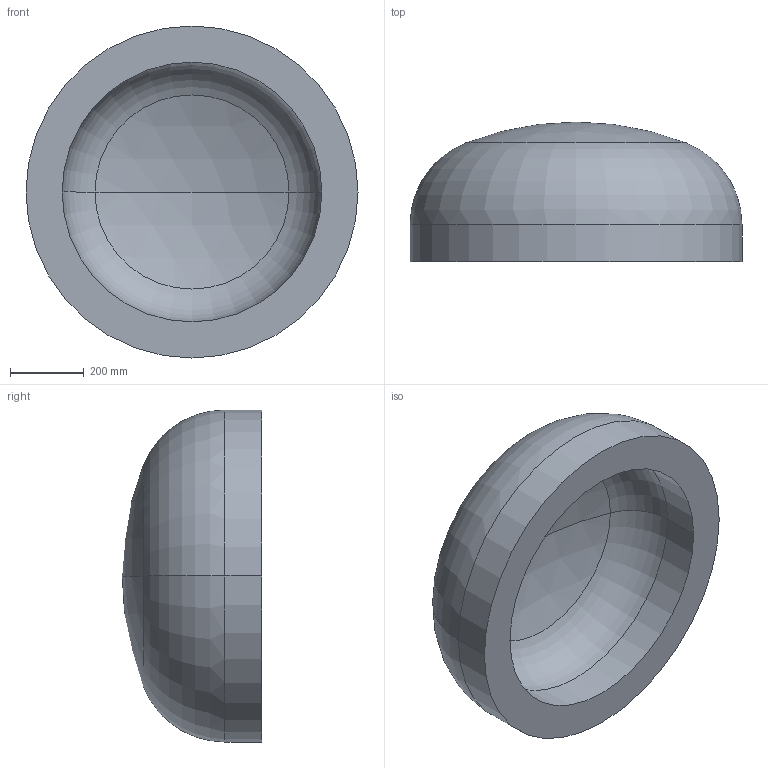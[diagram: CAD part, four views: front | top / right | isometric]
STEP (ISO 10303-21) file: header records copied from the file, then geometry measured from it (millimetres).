
FILE_DESCRIPTION (( 'STEP AP203' ), '1' );
FILE_NAME ('DIN 28013 Korbbogenform_-_Boden DIN 28013 - 900 x 100 - I - s=98.step', '2016-07-01T08:38:18', ( '' ), ( '' ), 'SwSTEP 2.0', 'SolidWorks 2013', '' );
FILE_SCHEMA (( 'CONFIG_CONTROL_DESIGN' ));
Length unit declared in the file: millimetre
Products named in the file (1): DIN 28013 Korbbogenform_-_Boden DIN 28013 - 900 x 100 - I - s=98
Bounding box: 900 x 378.13 x 900 mm (x, y, z)
Volume: 100376681.4 mm3; surface area: 2315534.6 mm2
Topology: 1 solids, 1 shells, 13 faces, 24 edges, 14 vertices
Faces by surface type: torus 4, cylinder 4, sphere 4, plane 1
Entity records: 407 total; most frequent: DIRECTION 72, CARTESIAN_POINT 52, ORIENTED_EDGE 48, AXIS2_PLACEMENT_3D 34, EDGE_CURVE 24, CIRCLE 20, VERTEX_POINT 14, EDGE_LOOP 14
